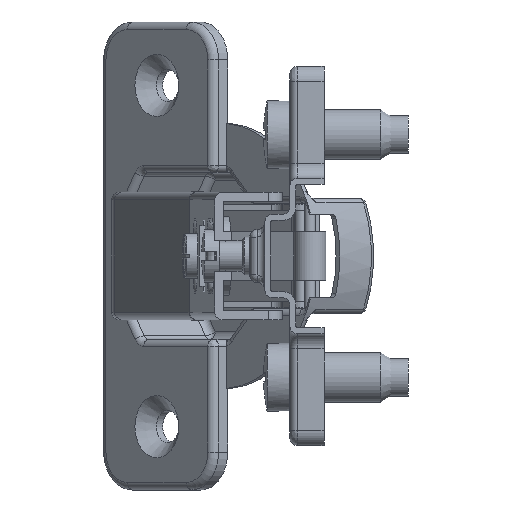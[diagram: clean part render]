
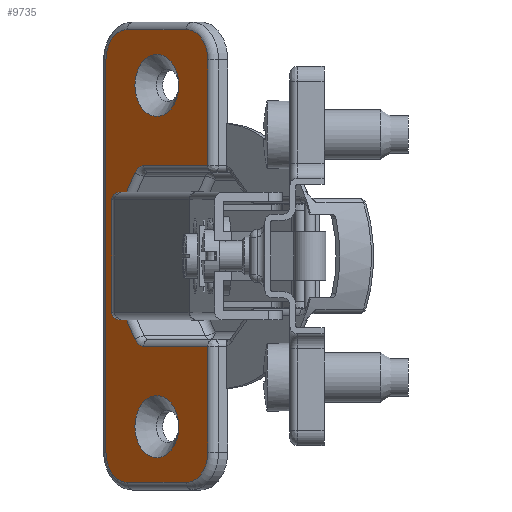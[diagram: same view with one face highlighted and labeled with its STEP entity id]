
A CAD part, left-side view. The second image highlights one B-rep face of the part: STEP entity #9735.
In plain terms, the highlighted planar face has unit normal (-0.707, 0.707, 0) as drawn and (0.73, 0.683, 0) by its records, which use the part's own axes.
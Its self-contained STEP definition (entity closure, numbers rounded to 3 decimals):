
#804=LINE('',#16967,#1507);
#806=LINE('',#16979,#1509);
#808=LINE('',#16991,#1511);
#810=LINE('',#17003,#1513);
#812=LINE('',#17015,#1515);
#835=LINE('',#17086,#1538);
#896=LINE('',#17418,#1599);
#897=LINE('',#17429,#1600);
#899=LINE('',#17441,#1602);
#901=LINE('',#17453,#1604);
#1507=VECTOR('',#13122,11.944);
#1509=VECTOR('',#13136,4.459);
#1511=VECTOR('',#13150,12.429);
#1513=VECTOR('',#13164,4.459);
#1515=VECTOR('',#13178,11.944);
#1538=VECTOR('',#13247,13.95);
#1599=VECTOR('',#13626,13.95);
#1600=VECTOR('',#13639,11.);
#1602=VECTOR('',#13653,51.7);
#1604=VECTOR('',#13667,11.);
#1873=PLANE('',#10860);
#1959=FACE_BOUND('',#3118,.T.);
#1960=FACE_BOUND('',#3119,.T.);
#2493=FACE_OUTER_BOUND('',#3117,.T.);
#3117=EDGE_LOOP('',(#8413,#8414,#8415,#8416,#8417,#8418,#8419,#8420,#8421,
#8422,#8423,#8424,#8425,#8426,#8427,#8428,#8429,#8430));
#3118=EDGE_LOOP('',(#8431));
#3119=EDGE_LOOP('',(#8432));
#3612=CIRCLE('',#10618,1.9);
#3616=CIRCLE('',#10624,1.9);
#3620=CIRCLE('',#10630,1.9);
#3624=CIRCLE('',#10636,1.9);
#3715=CIRCLE('',#10824,4.);
#3719=CIRCLE('',#10830,4.);
#3723=CIRCLE('',#10836,4.);
#3726=CIRCLE('',#10841,4.);
#3736=CIRCLE('',#10861,4.1);
#3737=CIRCLE('',#10862,4.1);
#4436=VERTEX_POINT('',#16960);
#4438=VERTEX_POINT('',#16965);
#4440=VERTEX_POINT('',#16971);
#4442=VERTEX_POINT('',#16977);
#4444=VERTEX_POINT('',#16983);
#4446=VERTEX_POINT('',#16989);
#4448=VERTEX_POINT('',#16995);
#4450=VERTEX_POINT('',#17001);
#4452=VERTEX_POINT('',#17007);
#4454=VERTEX_POINT('',#17013);
#4470=VERTEX_POINT('',#17085);
#4525=VERTEX_POINT('',#17416);
#4527=VERTEX_POINT('',#17421);
#4529=VERTEX_POINT('',#17427);
#4531=VERTEX_POINT('',#17433);
#4533=VERTEX_POINT('',#17439);
#4535=VERTEX_POINT('',#17445);
#4537=VERTEX_POINT('',#17451);
#4551=VERTEX_POINT('',#17503);
#4552=VERTEX_POINT('',#17505);
#5625=EDGE_CURVE('',#4438,#4436,#804,.T.);
#5628=EDGE_CURVE('',#4440,#4438,#3612,.T.);
#5631=EDGE_CURVE('',#4442,#4440,#806,.T.);
#5634=EDGE_CURVE('',#4444,#4442,#3616,.T.);
#5637=EDGE_CURVE('',#4446,#4444,#808,.T.);
#5640=EDGE_CURVE('',#4448,#4446,#3620,.T.);
#5643=EDGE_CURVE('',#4450,#4448,#810,.T.);
#5646=EDGE_CURVE('',#4452,#4450,#3624,.T.);
#5649=EDGE_CURVE('',#4454,#4452,#812,.T.);
#5682=EDGE_CURVE('',#4436,#4470,#835,.T.);
#5824=EDGE_CURVE('',#4525,#4454,#896,.T.);
#5826=EDGE_CURVE('',#4527,#4525,#3715,.T.);
#5829=EDGE_CURVE('',#4529,#4527,#897,.T.);
#5832=EDGE_CURVE('',#4531,#4529,#3719,.T.);
#5835=EDGE_CURVE('',#4533,#4531,#899,.T.);
#5838=EDGE_CURVE('',#4535,#4533,#3723,.T.);
#5841=EDGE_CURVE('',#4537,#4535,#901,.T.);
#5843=EDGE_CURVE('',#4470,#4537,#3726,.T.);
#5867=EDGE_CURVE('',#4551,#4551,#3736,.T.);
#5868=EDGE_CURVE('',#4552,#4552,#3737,.T.);
#8413=ORIENTED_EDGE('',*,*,#5649,.F.);
#8414=ORIENTED_EDGE('',*,*,#5824,.F.);
#8415=ORIENTED_EDGE('',*,*,#5826,.F.);
#8416=ORIENTED_EDGE('',*,*,#5829,.F.);
#8417=ORIENTED_EDGE('',*,*,#5832,.F.);
#8418=ORIENTED_EDGE('',*,*,#5835,.F.);
#8419=ORIENTED_EDGE('',*,*,#5838,.F.);
#8420=ORIENTED_EDGE('',*,*,#5841,.F.);
#8421=ORIENTED_EDGE('',*,*,#5843,.F.);
#8422=ORIENTED_EDGE('',*,*,#5682,.F.);
#8423=ORIENTED_EDGE('',*,*,#5625,.F.);
#8424=ORIENTED_EDGE('',*,*,#5628,.F.);
#8425=ORIENTED_EDGE('',*,*,#5631,.F.);
#8426=ORIENTED_EDGE('',*,*,#5634,.F.);
#8427=ORIENTED_EDGE('',*,*,#5637,.F.);
#8428=ORIENTED_EDGE('',*,*,#5640,.F.);
#8429=ORIENTED_EDGE('',*,*,#5643,.F.);
#8430=ORIENTED_EDGE('',*,*,#5646,.F.);
#8431=ORIENTED_EDGE('',*,*,#5867,.T.);
#8432=ORIENTED_EDGE('',*,*,#5868,.T.);
#9735=ADVANCED_FACE('',(#2493,#1959,#1960),#1873,.T.);
#10618=AXIS2_PLACEMENT_3D('',#16973,#13128,#13129);
#10624=AXIS2_PLACEMENT_3D('',#16985,#13142,#13143);
#10630=AXIS2_PLACEMENT_3D('',#16997,#13156,#13157);
#10636=AXIS2_PLACEMENT_3D('',#17009,#13170,#13171);
#10824=AXIS2_PLACEMENT_3D('',#17423,#13631,#13632);
#10830=AXIS2_PLACEMENT_3D('',#17435,#13645,#13646);
#10836=AXIS2_PLACEMENT_3D('',#17447,#13659,#13660);
#10841=AXIS2_PLACEMENT_3D('',#17456,#13671,#13672);
#10860=AXIS2_PLACEMENT_3D('',#17502,#13723,#13724);
#10861=AXIS2_PLACEMENT_3D('',#17504,#13725,#13726);
#10862=AXIS2_PLACEMENT_3D('',#17506,#13727,#13728);
#13122=DIRECTION('',(-0.683,0.73,0.));
#13128=DIRECTION('center_axis',(0.73,0.683,0.));
#13129=DIRECTION('ref_axis',(0.332,-0.355,-0.874));
#13136=DIRECTION('',(-0.361,0.386,-0.849));
#13142=DIRECTION('center_axis',(0.73,0.683,0.));
#13143=DIRECTION('ref_axis',(0.657,-0.702,-0.275));
#13150=DIRECTION('',(0.,0.,-1.));
#13156=DIRECTION('center_axis',(0.73,0.683,0.));
#13157=DIRECTION('ref_axis',(0.657,-0.702,0.275));
#13164=DIRECTION('',(0.361,-0.386,-0.849));
#13170=DIRECTION('center_axis',(0.73,0.683,0.));
#13171=DIRECTION('ref_axis',(0.332,-0.355,0.874));
#13178=DIRECTION('',(0.683,-0.73,0.));
#13247=DIRECTION('',(0.,0.,-1.));
#13626=DIRECTION('',(0.,0.,-1.));
#13631=DIRECTION('center_axis',(-0.73,-0.683,0.));
#13632=DIRECTION('ref_axis',(-0.483,0.516,0.707));
#13639=DIRECTION('',(-0.683,0.73,0.));
#13645=DIRECTION('center_axis',(-0.73,-0.683,0.));
#13646=DIRECTION('ref_axis',(0.483,-0.516,0.707));
#13653=DIRECTION('',(0.,0.,1.));
#13659=DIRECTION('center_axis',(-0.73,-0.683,0.));
#13660=DIRECTION('ref_axis',(0.483,-0.516,-0.707));
#13667=DIRECTION('',(0.683,-0.73,0.));
#13671=DIRECTION('center_axis',(-0.73,-0.683,0.));
#13672=DIRECTION('ref_axis',(-0.483,0.516,-0.707));
#13723=DIRECTION('center_axis',(0.73,0.683,0.));
#13724=DIRECTION('ref_axis',(-0.683,0.73,0.));
#13725=DIRECTION('center_axis',(-0.73,-0.683,0.));
#13726=DIRECTION('ref_axis',(0.,0.,-1.));
#13727=DIRECTION('center_axis',(-0.73,-0.683,0.));
#13728=DIRECTION('ref_axis',(0.,0.,-1.));
#16960=CARTESIAN_POINT('',(69.255,-25.59,-11.9));
#16965=CARTESIAN_POINT('',(77.415,-34.313,-11.9));
#16967=CARTESIAN_POINT('',(75.745,-32.528,-11.9));
#16971=CARTESIAN_POINT('',(78.517,-35.491,-11.004));
#16973=CARTESIAN_POINT('Origin',(77.415,-34.313,-10.));
#16977=CARTESIAN_POINT('',(80.126,-37.212,-7.218));
#16979=CARTESIAN_POINT('',(80.717,-37.843,-5.828));
#16983=CARTESIAN_POINT('',(80.322,-37.421,-6.214));
#16985=CARTESIAN_POINT('Origin',(79.024,-36.033,-6.214));
#16989=CARTESIAN_POINT('',(80.322,-37.421,6.214));
#16991=CARTESIAN_POINT('',(80.322,-37.421,-3.25));
#16995=CARTESIAN_POINT('',(80.126,-37.212,7.218));
#16997=CARTESIAN_POINT('Origin',(79.024,-36.033,6.214));
#17001=CARTESIAN_POINT('',(78.517,-35.491,11.004));
#17003=CARTESIAN_POINT('',(81.673,-38.865,3.578));
#17007=CARTESIAN_POINT('',(77.415,-34.313,11.9));
#17009=CARTESIAN_POINT('Origin',(77.415,-34.313,10.));
#17013=CARTESIAN_POINT('',(69.255,-25.59,11.9));
#17015=CARTESIAN_POINT('',(80.356,-37.458,11.9));
#17085=CARTESIAN_POINT('',(69.255,-25.59,-25.85));
#17086=CARTESIAN_POINT('',(69.255,-25.59,0.));
#17416=CARTESIAN_POINT('',(69.255,-25.59,25.85));
#17418=CARTESIAN_POINT('',(69.255,-25.59,0.));
#17421=CARTESIAN_POINT('',(71.988,-28.511,29.85));
#17423=CARTESIAN_POINT('Origin',(71.988,-28.511,25.85));
#17427=CARTESIAN_POINT('',(79.502,-36.545,29.85));
#17429=CARTESIAN_POINT('',(76.406,-33.235,29.85));
#17433=CARTESIAN_POINT('',(82.235,-39.466,25.85));
#17435=CARTESIAN_POINT('Origin',(79.502,-36.545,25.85));
#17439=CARTESIAN_POINT('',(82.235,-39.466,-25.85));
#17441=CARTESIAN_POINT('',(82.235,-39.466,0.));
#17445=CARTESIAN_POINT('',(79.502,-36.545,-29.85));
#17447=CARTESIAN_POINT('Origin',(79.502,-36.545,-25.85));
#17451=CARTESIAN_POINT('',(71.988,-28.511,-29.85));
#17453=CARTESIAN_POINT('',(76.406,-33.235,-29.85));
#17456=CARTESIAN_POINT('Origin',(71.988,-28.511,-25.85));
#17502=CARTESIAN_POINT('Origin',(82.918,-40.196,0.));
#17503=CARTESIAN_POINT('',(75.745,-32.528,-26.6));
#17504=CARTESIAN_POINT('Origin',(75.745,-32.528,-22.5));
#17505=CARTESIAN_POINT('',(75.745,-32.528,18.4));
#17506=CARTESIAN_POINT('Origin',(75.745,-32.528,22.5));
